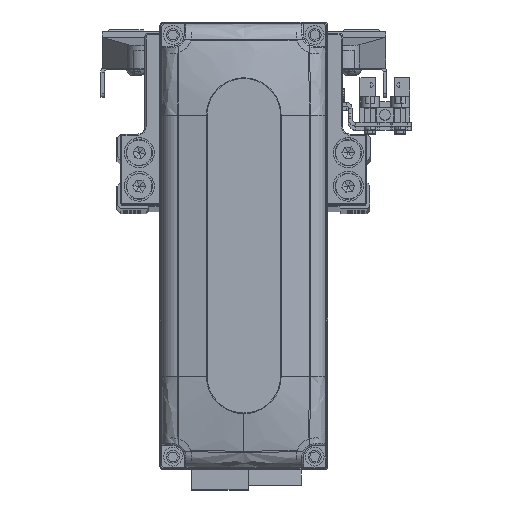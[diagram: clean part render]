
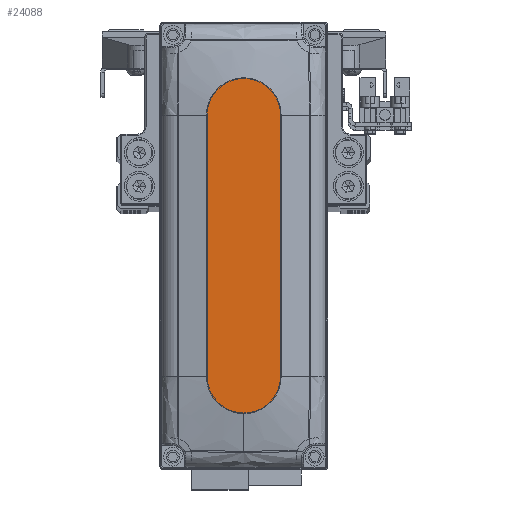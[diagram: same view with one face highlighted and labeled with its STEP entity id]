
A CAD part, top view. The second image highlights one B-rep face of the part: STEP entity #24088.
In plain terms, the highlighted planar face has unit normal (0, 0, 1).
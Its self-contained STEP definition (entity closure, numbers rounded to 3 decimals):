
#62 = CIRCLE ( 'NONE', #5979, 10. ) ;
#105 = CARTESIAN_POINT ( 'NONE',  ( -35., -10., 28. ) ) ;
#1229 = EDGE_CURVE ( 'NONE', #40168, #35237, #62, .T. ) ;
#1785 = ORIENTED_EDGE ( 'NONE', *, *, #27095, .T. ) ;
#2039 = CARTESIAN_POINT ( 'NONE',  ( -35., 0., 28. ) ) ;
#3401 = CIRCLE ( 'NONE', #29288, 10. ) ;
#5945 = CARTESIAN_POINT ( 'NONE',  ( -35., 10., 28. ) ) ;
#5979 = AXIS2_PLACEMENT_3D ( 'NONE', #39103, #7385, #21555 ) ;
#7385 = DIRECTION ( 'NONE',  ( 0., 0., 1. ) ) ;
#7561 = CARTESIAN_POINT ( 'NONE',  ( 35., 10., 28. ) ) ;
#11636 = DIRECTION ( 'NONE',  ( 1., 0., 0. ) ) ;
#12929 = DIRECTION ( 'NONE',  ( 0., 0., 1. ) ) ;
#13084 = AXIS2_PLACEMENT_3D ( 'NONE', #29267, #43344, #11636 ) ;
#13365 = ORIENTED_EDGE ( 'NONE', *, *, #40355, .T. ) ;
#14119 = VECTOR ( 'NONE', #20107, 1000. ) ;
#14249 = DIRECTION ( 'NONE',  ( 1., 0., 0. ) ) ;
#16197 = DIRECTION ( 'NONE',  ( 0., 0., 1. ) ) ;
#16427 = FACE_OUTER_BOUND ( 'NONE', #38795, .T. ) ;
#16455 = EDGE_CURVE ( 'NONE', #35237, #19843, #33066, .T. ) ;
#19843 = VERTEX_POINT ( 'NONE', #7561 ) ;
#20107 = DIRECTION ( 'NONE',  ( -1., 0., 0. ) ) ;
#21555 = DIRECTION ( 'NONE',  ( 1., 0., 0. ) ) ;
#21671 = CARTESIAN_POINT ( 'NONE',  ( 45., 0., 28. ) ) ;
#22875 = VERTEX_POINT ( 'NONE', #44841 ) ;
#24088 = ADVANCED_FACE ( 'NONE', ( #16427 ), #30539, .T. ) ;
#27066 = DIRECTION ( 'NONE',  ( 1., 0., 0. ) ) ;
#27095 = EDGE_CURVE ( 'NONE', #22875, #36741, #3401, .T. ) ;
#27527 = VECTOR ( 'NONE', #14249, 1000. ) ;
#29267 = CARTESIAN_POINT ( 'NONE',  ( 35., 0., 28. ) ) ;
#29288 = AXIS2_PLACEMENT_3D ( 'NONE', #2039, #16197, #30323 ) ;
#29873 = ORIENTED_EDGE ( 'NONE', *, *, #16455, .T. ) ;
#30323 = DIRECTION ( 'NONE',  ( 1., 0., 0. ) ) ;
#30539 = PLANE ( 'NONE',  #32488 ) ;
#31257 = ORIENTED_EDGE ( 'NONE', *, *, #1229, .T. ) ;
#31847 = LINE ( 'NONE', #105, #27527 ) ;
#32488 = AXIS2_PLACEMENT_3D ( 'NONE', #44614, #12929, #27066 ) ;
#33066 = CIRCLE ( 'NONE', #13084, 10. ) ;
#35034 = CARTESIAN_POINT ( 'NONE',  ( -35., -10., 28. ) ) ;
#35191 = EDGE_CURVE ( 'NONE', #36741, #40168, #31847, .T. ) ;
#35237 = VERTEX_POINT ( 'NONE', #21671 ) ;
#35624 = CARTESIAN_POINT ( 'NONE',  ( 35., -10., 28. ) ) ;
#36529 = ORIENTED_EDGE ( 'NONE', *, *, #35191, .T. ) ;
#36741 = VERTEX_POINT ( 'NONE', #35034 ) ;
#37673 = LINE ( 'NONE', #5945, #14119 ) ;
#38795 = EDGE_LOOP ( 'NONE', ( #13365, #1785, #36529, #31257, #29873 ) ) ;
#39103 = CARTESIAN_POINT ( 'NONE',  ( 35., 0., 28. ) ) ;
#40168 = VERTEX_POINT ( 'NONE', #35624 ) ;
#40355 = EDGE_CURVE ( 'NONE', #19843, #22875, #37673, .T. ) ;
#43344 = DIRECTION ( 'NONE',  ( 0., 0., 1. ) ) ;
#44614 = CARTESIAN_POINT ( 'NONE',  ( 0., 0., 28. ) ) ;
#44841 = CARTESIAN_POINT ( 'NONE',  ( -35., 10., 28. ) ) ;
